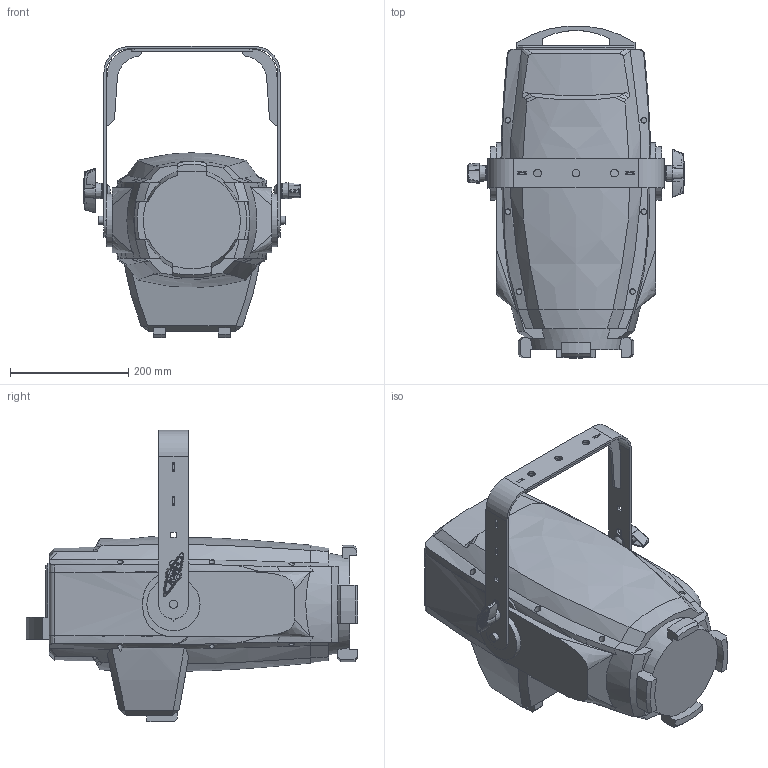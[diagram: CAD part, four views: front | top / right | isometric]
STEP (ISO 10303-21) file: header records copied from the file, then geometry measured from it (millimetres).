
FILE_DESCRIPTION(/* description */ ('Unknown'),/* implementation_level */ '2;1');
FILE_NAME(/* name */ '3D Robin iT10',/* time_stamp */ '2026-08-14T10:31:52+02:00',/* author */ ('Unknown'),/* organization */ ('Unknown'),/* preprocessor_version */ 'ST-DEVELOPER v20',/* originating_system */ 'Solid Edge',/* authorisation */ 'Unknown');
FILE_SCHEMA (('AUTOMOTIVE_DESIGN {1 0 10303 214 3 1 1}'));
Length unit declared in the file: millimetre
Products named in the file (14): 3D Robin iT10; 99020082 Sestava z嫛鮀u iT10_oa_0; 11031308 Závìs iT10 svaøenec_oa_1; 11040845 Z嫛鮀 iT10; 11040846 Výztuha závìsu; 11040870 Podložka závìsu; 11018055 Podložka závìsu; 18710218 Šroub M8X20 s ètyøhranem; 17031496 Tøecí podložka; 19020486 ROBE matice M8 nerez; 18640014 Matice M8; 19020128-00 ROBE šroub M8 - køídlo; 18750018 Podložka 8 black
Assembly tree (20 placements, depth 4):
  3D Robin iT10
    3D Robin iT10
    99020082 Sestava z嫛鮀u iT10_oa_0
      11031308 Závìs iT10 svaøenec_oa_1
        11040845 Z嫛鮀 iT10
        11040846 Výztuha závìsu  x2
        11040870 Podložka závìsu
      11018055 Podložka závìsu  x2
      18710218 Šroub M8X20 s ètyøhranem  x2
      17031496 Tøecí podložka  x2
      19020486 ROBE matice M8 nerez  x2
        18640014 Matice M8
        19020128-00 ROBE šroub M8 - køídlo
      18750018 Podložka 8 black  x2
Bounding box: 366.81 x 561.4 x 492.47 mm (x, y, z)
Volume: 25683417.4 mm3; surface area: 806290.7 mm2
Topology: 19 solids, 21 shells, 1220 faces, 3019 edges, 1875 vertices
Faces by surface type: bspline 419, plane 408, cylinder 132, cone 131, sphere 80, torus 50
Full cylindrical faces by diameter (mm): 3.6 x2, 4.5 x2, 8 x6, 8.4 x2, 12.9 x4, 13 x8, 14 x2, 16 x2, 24 x2, 43 x2, 90 x2
Entity records: 29666 total; most frequent: CARTESIAN_POINT 13416, ORIENTED_EDGE 3620, DIRECTION 2642, EDGE_CURVE 1810, VERTEX_POINT 1173, AXIS2_PLACEMENT_3D 1003, EDGE_LOOP 899, FACE_BOUND 899
